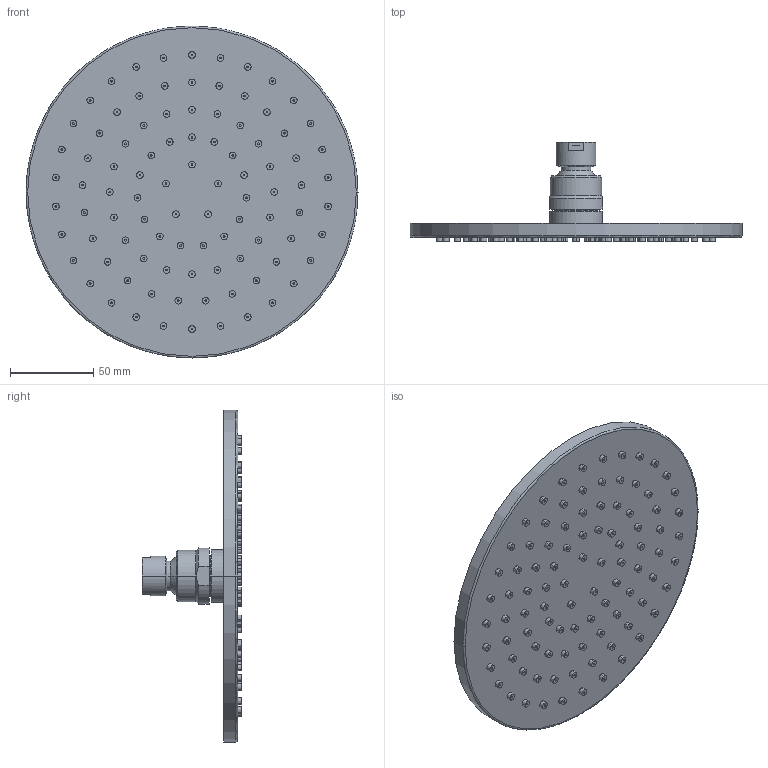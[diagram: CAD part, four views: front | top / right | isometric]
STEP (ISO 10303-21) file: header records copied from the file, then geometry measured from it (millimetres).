
FILE_DESCRIPTION(/* description */ (''),/* implementation_level */ '2;1');
FILE_NAME(/* name */ 'F2117_2',/* time_stamp */ '2025-04-04T16:11:06+02:00',/* author */ (''),/* organization */ (''),/* preprocessor_version */ 'ST-DEVELOPER v19.2',/* originating_system */ 'Rhino 8.1',/* authorisation */ '');
FILE_SCHEMA (('CONFIG_CONTROL_DESIGN'));
Length unit declared in the file: centimetre
Products named in the file (1): Document
Bounding box: 200 x 60 x 200 mm (x, y, z)
Volume: 296579.2 mm3; surface area: 79793.2 mm2
Topology: 11 solids, 11 shells, 761 faces, 1588 edges, 1026 vertices
Faces by surface type: cylinder 402, plane 285, bspline 74
Entity records: 22847 total; most frequent: CARTESIAN_POINT 7219, ORIENTED_EDGE 3096, DIRECTION 2451, AXIS2_PLACEMENT_3D 1569, EDGE_CURVE 1548, VERTEX_POINT 1026, EDGE_LOOP 978, TRIMMED_CURVE 880
